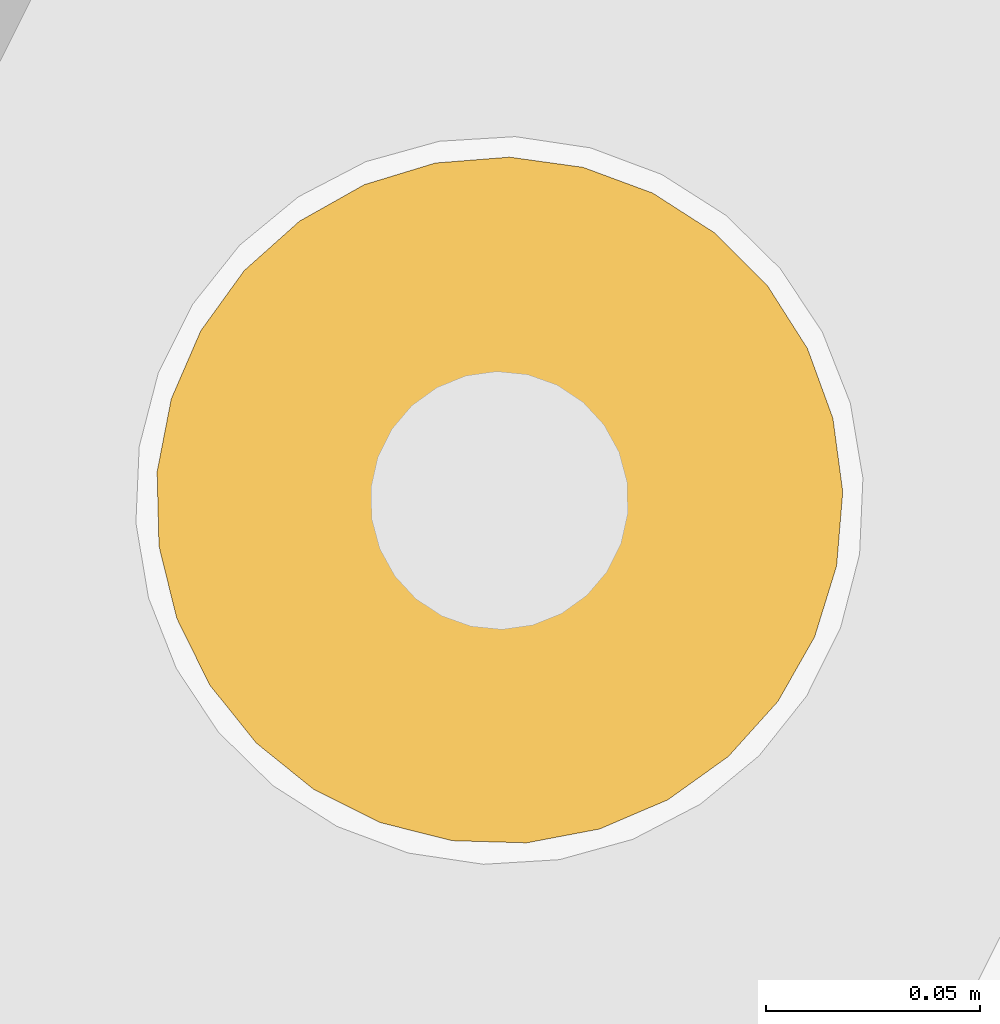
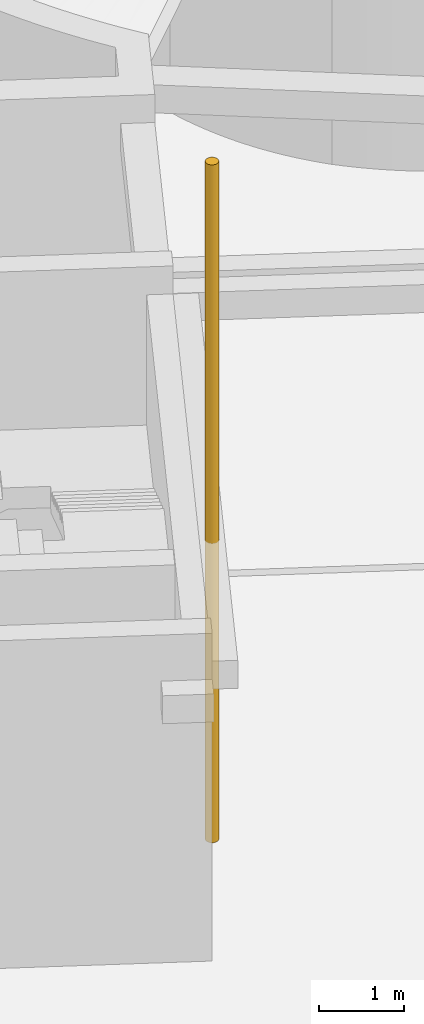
# One storey, part 33 of 91: 1 covering.
"""IFC2X3 building model written with IfcOpenShell, lengths in metres."""

from ifc_helpers import new_model, entity, si_unit, converted_unit, derived_unit, direction, frame, frame_2d, origin, place, context, subcontext, project, spatial, circle, extrude, element, save


model = new_model("IFC2X3")

# Units and contexts
model_context = context("Model", 3, precision=1e-05, world=origin(), true_north=direction((0.894925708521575, 0.446215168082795)))
context_of_model = context(None, 3, precision=1e-05, world=origin(), true_north=direction((0.894925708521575, 0.446215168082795)))
body_context = subcontext(model_context, "Body", "Model", "MODEL_VIEW")
ifc_project = project(units=[si_unit("LENGTHUNIT", "METRE"), si_unit("AREAUNIT", "SQUARE_METRE"), si_unit("VOLUMEUNIT", "CUBIC_METRE"), converted_unit("PLANEANGLEUNIT", "DEGREE", entity("IfcRatioMeasure", 0.0174532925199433), si_unit("PLANEANGLEUNIT", "RADIAN"), dimensions=[0, 0, 0, 0, 0, 0, 0]), si_unit("MASSUNIT", "GRAM", prefix="KILO"), si_unit("TIMEUNIT", "SECOND"), si_unit("FREQUENCYUNIT", "HERTZ"), si_unit("THERMODYNAMICTEMPERATUREUNIT", "DEGREE_CELSIUS"), derived_unit("THERMALTRANSMITTANCEUNIT", [(si_unit("MASSUNIT", "GRAM", prefix="KILO"), 1), (si_unit("THERMODYNAMICTEMPERATUREUNIT", "KELVIN"), -1), (si_unit("TIMEUNIT", "SECOND"), -3)]), derived_unit("VOLUMETRICFLOWRATEUNIT", [(si_unit("LENGTHUNIT", "METRE"), 3), (si_unit("TIMEUNIT", "SECOND"), -1)]), si_unit("ELECTRICCURRENTUNIT", "AMPERE"), si_unit("ELECTRICVOLTAGEUNIT", "VOLT"), si_unit("POWERUNIT", "WATT"), si_unit("FORCEUNIT", "NEWTON", prefix="KILO"), si_unit("ILLUMINANCEUNIT", "LUX"), si_unit("LUMINOUSFLUXUNIT", "LUMEN"), si_unit("LUMINOUSINTENSITYUNIT", "CANDELA"), si_unit("PRESSUREUNIT", "PASCAL")], contexts=[model_context, context_of_model])

# Site, building, storey
site_placement = place(None, frame((218.228324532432, 584.720189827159, 0.0), z_axis=(0.0, 0.0, 1.0), x_axis=(0.446215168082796, 0.894925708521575, 0.0)))
site = spatial("IfcSite", under=ifc_project, at=site_placement, Name="Default", CompositionType="ELEMENT")
building_placement = place(site_placement, origin())
building = spatial("IfcBuilding", under=site, at=building_placement, CompositionType="ELEMENT")
storey_placement = place(building_placement, origin())
storey = spatial("IfcBuildingStorey", under=building, at=storey_placement, Name="0 - Piano Terra", CompositionType="ELEMENT", Elevation=0.0)

# Covering
covering_placement = place(storey_placement, frame((53.4141792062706, 0.567163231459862, 0.0)))
element("IfcCovering", 1, at=covering_placement, inside=storey, Name="Isolamento tubazione:Default", ObjectType="Isolamento tubazione:Default", PredefinedType="INSULATION", context=body_context, shape_type="SweptSolid", body=[
    extrude(circle(Radius=0.0801625, at=frame_2d((8.66293703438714e-15, 6.76791955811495e-16), x_axis=(1.0, 0.0))), frame((0.0817577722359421, 0.081757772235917, 0.0)), (0.0, 0.0, 1.0), 9.7),
])

save(model, "model.ifc")
